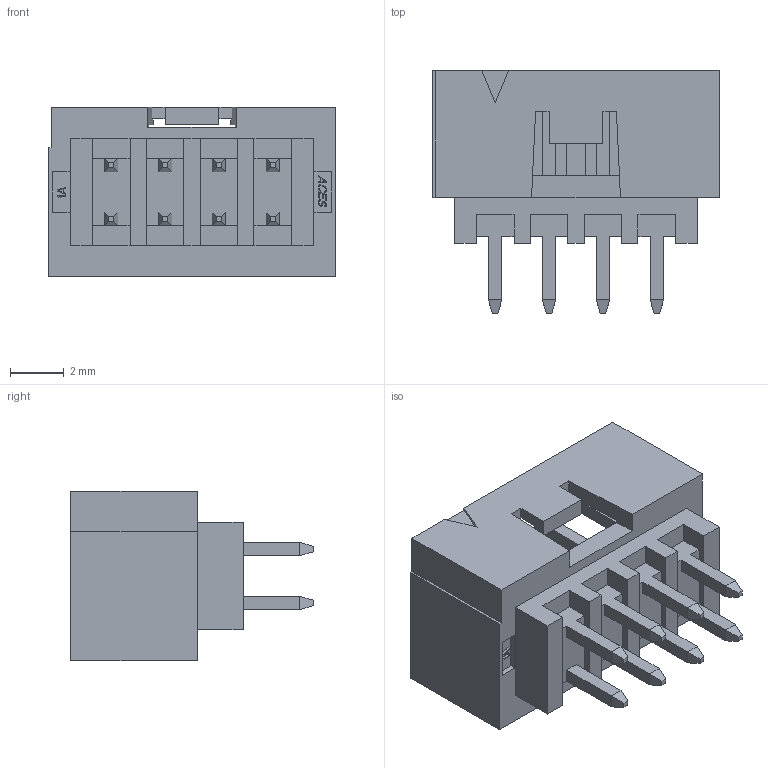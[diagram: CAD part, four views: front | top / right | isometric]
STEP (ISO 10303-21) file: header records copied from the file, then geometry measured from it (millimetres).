
FILE_DESCRIPTION((''),'2;1');
FILE_NAME('PRT0001','2017-02-28T',('t00922'),(''),'PRO/ENGINEER BY PARAMETRIC TECHNOLOGY CORPORATION, 2011490','PRO/ENGINEER BY PARAMETRIC TECHNOLOGY CORPORATION, 2011490','');
FILE_SCHEMA(('CONFIG_CONTROL_DESIGN'));
Length unit declared in the file: millimetre
Products named in the file (1): PRT0001
Bounding box: 10.65 x 9 x 6.3 mm (x, y, z)
Volume: 182.2 mm3; surface area: 586.9 mm2
Topology: 1 solids, 1 shells, 437 faces, 1182 edges, 765 vertices
Faces by surface type: plane 437
Entity records: 13386 total; most frequent: CARTESIAN_POINT 2384, ORIENTED_EDGE 2364, DIRECTION 2056, VECTOR 1182, LINE 1182, EDGE_CURVE 1182, VERTEX_POINT 765, EDGE_LOOP 457
